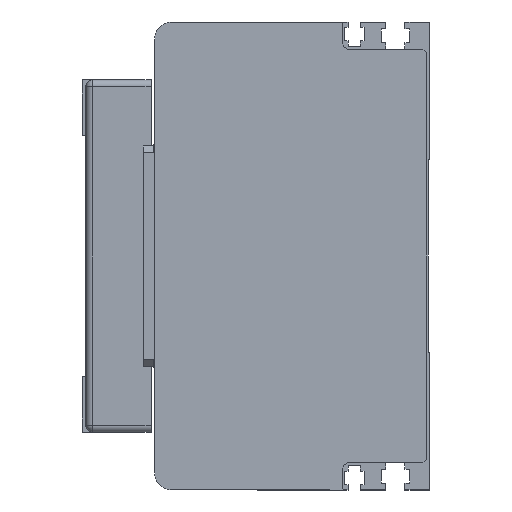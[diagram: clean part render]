
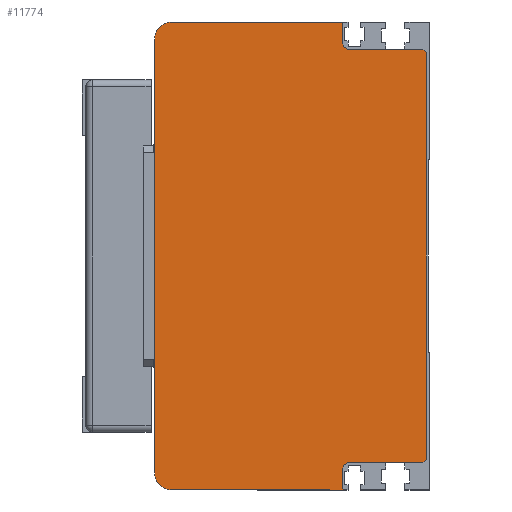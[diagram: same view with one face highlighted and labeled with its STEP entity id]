
A CAD part, left-side view. The second image highlights one B-rep face of the part: STEP entity #11774.
In plain terms, the highlighted planar face has unit normal (-1, 0, 0) as drawn and (0, 0, -1) by its records, which use the part's own axes.
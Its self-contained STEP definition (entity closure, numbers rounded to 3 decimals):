
#921=FACE_OUTER_BOUND('',#1624,.T.);
#1624=EDGE_LOOP('',(#8163,#8164,#8165,#8166,#8167,#8168,#8169,#8170,#8171,
#8172,#8173,#8174,#8175,#8176));
#2384=CIRCLE('',#12610,2.);
#2385=CIRCLE('',#12611,5.);
#2386=CIRCLE('',#12612,5.);
#2387=CIRCLE('',#12613,2.);
#2662=LINE('',#16703,#3805);
#2663=LINE('',#16705,#3806);
#2664=LINE('',#16707,#3807);
#2665=LINE('',#16709,#3808);
#2666=LINE('',#16713,#3809);
#2667=LINE('',#16715,#3810);
#2668=LINE('',#16719,#3811);
#2669=LINE('',#16723,#3812);
#2670=LINE('',#16725,#3813);
#2671=LINE('',#16728,#3814);
#3805=VECTOR('',#13765,1.414);
#3806=VECTOR('',#13766,118.);
#3807=VECTOR('',#13767,1.414);
#3808=VECTOR('',#13768,21.3);
#3809=VECTOR('',#13771,6.);
#3810=VECTOR('',#13772,49.7);
#3811=VECTOR('',#13775,126.);
#3812=VECTOR('',#13778,49.7);
#3813=VECTOR('',#13779,6.);
#3814=VECTOR('',#13782,21.3);
#5006=VERTEX_POINT('',#16701);
#5007=VERTEX_POINT('',#16702);
#5008=VERTEX_POINT('',#16704);
#5009=VERTEX_POINT('',#16706);
#5010=VERTEX_POINT('',#16708);
#5011=VERTEX_POINT('',#16710);
#5012=VERTEX_POINT('',#16712);
#5013=VERTEX_POINT('',#16714);
#5014=VERTEX_POINT('',#16716);
#5015=VERTEX_POINT('',#16718);
#5016=VERTEX_POINT('',#16720);
#5017=VERTEX_POINT('',#16722);
#5018=VERTEX_POINT('',#16724);
#5019=VERTEX_POINT('',#16726);
#6244=EDGE_CURVE('',#5006,#5007,#2662,.T.);
#6245=EDGE_CURVE('',#5006,#5008,#2663,.T.);
#6246=EDGE_CURVE('',#5009,#5008,#2664,.T.);
#6247=EDGE_CURVE('',#5009,#5010,#2665,.T.);
#6248=EDGE_CURVE('',#5011,#5010,#2384,.T.);
#6249=EDGE_CURVE('',#5011,#5012,#2666,.T.);
#6250=EDGE_CURVE('',#5012,#5013,#2667,.T.);
#6251=EDGE_CURVE('',#5013,#5014,#2385,.T.);
#6252=EDGE_CURVE('',#5014,#5015,#2668,.T.);
#6253=EDGE_CURVE('',#5015,#5016,#2386,.T.);
#6254=EDGE_CURVE('',#5016,#5017,#2669,.T.);
#6255=EDGE_CURVE('',#5017,#5018,#2670,.T.);
#6256=EDGE_CURVE('',#5019,#5018,#2387,.T.);
#6257=EDGE_CURVE('',#5019,#5007,#2671,.T.);
#8163=ORIENTED_EDGE('',*,*,#6244,.F.);
#8164=ORIENTED_EDGE('',*,*,#6245,.T.);
#8165=ORIENTED_EDGE('',*,*,#6246,.F.);
#8166=ORIENTED_EDGE('',*,*,#6247,.T.);
#8167=ORIENTED_EDGE('',*,*,#6248,.F.);
#8168=ORIENTED_EDGE('',*,*,#6249,.T.);
#8169=ORIENTED_EDGE('',*,*,#6250,.T.);
#8170=ORIENTED_EDGE('',*,*,#6251,.T.);
#8171=ORIENTED_EDGE('',*,*,#6252,.T.);
#8172=ORIENTED_EDGE('',*,*,#6253,.T.);
#8173=ORIENTED_EDGE('',*,*,#6254,.T.);
#8174=ORIENTED_EDGE('',*,*,#6255,.T.);
#8175=ORIENTED_EDGE('',*,*,#6256,.F.);
#8176=ORIENTED_EDGE('',*,*,#6257,.T.);
#11200=PLANE('',#12609);
#11774=ADVANCED_FACE('',(#921),#11200,.T.);
#12609=AXIS2_PLACEMENT_3D('',#16700,#13763,#13764);
#12610=AXIS2_PLACEMENT_3D('',#16711,#13769,#13770);
#12611=AXIS2_PLACEMENT_3D('',#16717,#13773,#13774);
#12612=AXIS2_PLACEMENT_3D('',#16721,#13776,#13777);
#12613=AXIS2_PLACEMENT_3D('',#16727,#13780,#13781);
#13763=DIRECTION('center_axis',(0.,0.,-1.));
#13764=DIRECTION('ref_axis',(0.,-1.,0.));
#13765=DIRECTION('',(0.707,0.707,0.));
#13766=DIRECTION('',(-1.,0.,0.));
#13767=DIRECTION('',(0.707,-0.707,0.));
#13768=DIRECTION('',(0.,1.,0.));
#13769=DIRECTION('center_axis',(0.,0.,-1.));
#13770=DIRECTION('ref_axis',(0.707,0.707,0.));
#13771=DIRECTION('',(-1.,0.,0.));
#13772=DIRECTION('',(0.,1.,0.));
#13773=DIRECTION('center_axis',(0.,0.,-1.));
#13774=DIRECTION('ref_axis',(-1.,0.,0.));
#13775=DIRECTION('',(1.,0.,0.));
#13776=DIRECTION('center_axis',(0.,0.,-1.));
#13777=DIRECTION('ref_axis',(0.,1.,0.));
#13778=DIRECTION('',(0.,-1.,0.));
#13779=DIRECTION('',(-1.,0.,0.));
#13780=DIRECTION('center_axis',(0.,0.,-1.));
#13781=DIRECTION('ref_axis',(-0.707,0.707,0.));
#13782=DIRECTION('',(0.,-1.,0.));
#16700=CARTESIAN_POINT('Origin',(-29.,-60.,-100.));
#16701=CARTESIAN_POINT('',(66.,-74.,-100.));
#16702=CARTESIAN_POINT('',(67.,-73.,-100.));
#16703=CARTESIAN_POINT('',(46.,-94.,-100.));
#16704=CARTESIAN_POINT('',(-52.,-74.,-100.));
#16705=CARTESIAN_POINT('',(-11.,-74.,-100.));
#16706=CARTESIAN_POINT('',(-53.,-73.,-100.));
#16707=CARTESIAN_POINT('',(-50.,-76.,-100.));
#16708=CARTESIAN_POINT('',(-53.,-51.7,-100.));
#16709=CARTESIAN_POINT('',(-53.,-67.,-100.));
#16710=CARTESIAN_POINT('',(-55.,-49.7,-100.));
#16711=CARTESIAN_POINT('Origin',(-55.,-51.7,-100.));
#16712=CARTESIAN_POINT('',(-61.,-49.7,-100.));
#16713=CARTESIAN_POINT('',(-41.,-49.7,-100.));
#16714=CARTESIAN_POINT('',(-61.,0.,-100.));
#16715=CARTESIAN_POINT('',(-61.,-51.25,-100.));
#16716=CARTESIAN_POINT('',(-56.,5.,-100.));
#16717=CARTESIAN_POINT('Origin',(-56.,0.,
-100.));
#16718=CARTESIAN_POINT('',(70.,5.,-100.));
#16719=CARTESIAN_POINT('',(-56.,5.,-100.));
#16720=CARTESIAN_POINT('',(75.,0.,-100.));
#16721=CARTESIAN_POINT('Origin',(70.,0.,
-100.));
#16722=CARTESIAN_POINT('',(75.,-49.7,-100.));
#16723=CARTESIAN_POINT('',(75.,0.,-100.));
#16724=CARTESIAN_POINT('',(69.,-49.7,-100.));
#16725=CARTESIAN_POINT('',(19.,-49.7,-100.));
#16726=CARTESIAN_POINT('',(67.,-51.7,-100.));
#16727=CARTESIAN_POINT('Origin',(69.,-51.7,-100.));
#16728=CARTESIAN_POINT('',(67.,-67.,-100.));
